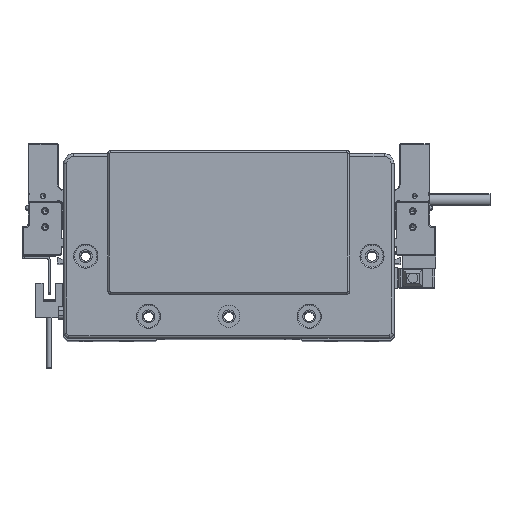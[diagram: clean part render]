
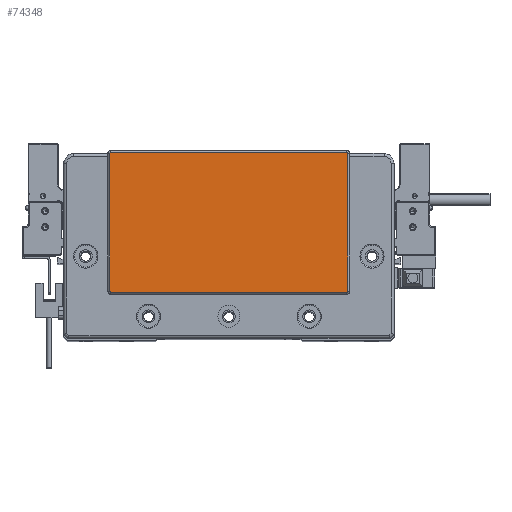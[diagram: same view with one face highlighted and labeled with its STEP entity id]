
A CAD part, top view. The second image highlights one B-rep face of the part: STEP entity #74348.
In plain terms, the highlighted planar face has unit normal (0, 0, 1) as drawn and (0, 0, -1) by its records, which use the part's own axes.
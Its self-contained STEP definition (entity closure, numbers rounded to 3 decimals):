
#30 = VECTOR ( 'NONE', #4992, 1000. ) ;
#916 = CARTESIAN_POINT ( 'NONE',  ( 59.25, -23.3, -2. ) ) ;
#2316 = AXIS2_PLACEMENT_3D ( 'NONE', #13705, #54300, #71733 ) ;
#2453 = CARTESIAN_POINT ( 'NONE',  ( -58.75, 45.3, -2. ) ) ;
#2470 = ORIENTED_EDGE ( 'NONE', *, *, #19140, .T. ) ;
#4309 = CARTESIAN_POINT ( 'NONE',  ( -59.25, -23.3, -2. ) ) ;
#4992 = DIRECTION ( 'NONE',  ( 0., 1., 0. ) ) ;
#7137 = EDGE_CURVE ( 'NONE', #68412, #57558, #61884, .T. ) ;
#8781 = DIRECTION ( 'NONE',  ( 0., -1., 0. ) ) ;
#13705 = CARTESIAN_POINT ( 'NONE',  ( 0., 0., -2. ) ) ;
#14352 = EDGE_LOOP ( 'NONE', ( #2470, #41384, #21882, #21409, #43980, #45262, #30263, #16435 ) ) ;
#14668 = CARTESIAN_POINT ( 'NONE',  ( -59.25, 45.3, -2. ) ) ;
#15125 = VERTEX_POINT ( 'NONE', #20157 ) ;
#16435 = ORIENTED_EDGE ( 'NONE', *, *, #72998, .T. ) ;
#16975 = CARTESIAN_POINT ( 'NONE',  ( 58.75, -23.8, -2. ) ) ;
#17461 = CIRCLE ( 'NONE', #63491, 0.5 ) ;
#17858 = DIRECTION ( 'NONE',  ( 0., 0., -1. ) ) ;
#17868 = CIRCLE ( 'NONE', #20316, 0.5 ) ;
#19140 = EDGE_CURVE ( 'NONE', #42565, #64646, #44022, .T. ) ;
#19739 = EDGE_CURVE ( 'NONE', #61515, #29574, #17461, .T. ) ;
#20157 = CARTESIAN_POINT ( 'NONE',  ( 58.75, 45.8, -2. ) ) ;
#20316 = AXIS2_PLACEMENT_3D ( 'NONE', #74435, #17858, #29272 ) ;
#20738 = CARTESIAN_POINT ( 'NONE',  ( 59.25, 45.3, -2. ) ) ;
#21409 = ORIENTED_EDGE ( 'NONE', *, *, #62837, .T. ) ;
#21611 = AXIS2_PLACEMENT_3D ( 'NONE', #73881, #21900, #62114 ) ;
#21882 = ORIENTED_EDGE ( 'NONE', *, *, #7137, .T. ) ;
#21900 = DIRECTION ( 'NONE',  ( 0., 0., -1. ) ) ;
#22029 = EDGE_CURVE ( 'NONE', #29574, #15125, #61237, .T. ) ;
#22037 = CARTESIAN_POINT ( 'NONE',  ( -59.25, 45.3, -2. ) ) ;
#25312 = VECTOR ( 'NONE', #74396, 1000. ) ;
#29272 = DIRECTION ( 'NONE',  ( -1., 0., 0. ) ) ;
#29574 = VERTEX_POINT ( 'NONE', #44166 ) ;
#30263 = ORIENTED_EDGE ( 'NONE', *, *, #22029, .T. ) ;
#36822 = VECTOR ( 'NONE', #8781, 1000. ) ;
#37318 = DIRECTION ( 'NONE',  ( 0., 0., -1. ) ) ;
#37491 = VECTOR ( 'NONE', #67264, 1000. ) ;
#38554 = DIRECTION ( 'NONE',  ( -1., 0., 0. ) ) ;
#39208 = CIRCLE ( 'NONE', #47733, 0.5 ) ;
#39471 = LINE ( 'NONE', #22037, #30 ) ;
#41384 = ORIENTED_EDGE ( 'NONE', *, *, #73758, .T. ) ;
#41792 = EDGE_CURVE ( 'NONE', #53713, #61515, #39471, .T. ) ;
#42565 = VERTEX_POINT ( 'NONE', #20738 ) ;
#43980 = ORIENTED_EDGE ( 'NONE', *, *, #41792, .T. ) ;
#44022 = LINE ( 'NONE', #66396, #36822 ) ;
#44166 = CARTESIAN_POINT ( 'NONE',  ( -58.75, 45.8, -2. ) ) ;
#44620 = DIRECTION ( 'NONE',  ( 0., 0., -1. ) ) ;
#45262 = ORIENTED_EDGE ( 'NONE', *, *, #19739, .T. ) ;
#45810 = CIRCLE ( 'NONE', #21611, 0.5 ) ;
#47733 = AXIS2_PLACEMENT_3D ( 'NONE', #72714, #44620, #38554 ) ;
#53713 = VERTEX_POINT ( 'NONE', #4309 ) ;
#54300 = DIRECTION ( 'NONE',  ( 0., 0., -1. ) ) ;
#56568 = CARTESIAN_POINT ( 'NONE',  ( -58.75, -23.8, -2. ) ) ;
#57558 = VERTEX_POINT ( 'NONE', #74192 ) ;
#61237 = LINE ( 'NONE', #72996, #37491 ) ;
#61515 = VERTEX_POINT ( 'NONE', #14668 ) ;
#61884 = LINE ( 'NONE', #56568, #25312 ) ;
#62114 = DIRECTION ( 'NONE',  ( -1., 0., 0. ) ) ;
#62837 = EDGE_CURVE ( 'NONE', #57558, #53713, #39208, .T. ) ;
#63491 = AXIS2_PLACEMENT_3D ( 'NONE', #2453, #37318, #70716 ) ;
#64646 = VERTEX_POINT ( 'NONE', #916 ) ;
#65680 = PLANE ( 'NONE',  #2316 ) ;
#66396 = CARTESIAN_POINT ( 'NONE',  ( 59.25, -23.3, -2. ) ) ;
#67264 = DIRECTION ( 'NONE',  ( 1., 0., 0. ) ) ;
#68412 = VERTEX_POINT ( 'NONE', #16975 ) ;
#70716 = DIRECTION ( 'NONE',  ( -1., 0., 0. ) ) ;
#71733 = DIRECTION ( 'NONE',  ( -1., 0., 0. ) ) ;
#72091 = FACE_OUTER_BOUND ( 'NONE', #14352, .T. ) ;
#72714 = CARTESIAN_POINT ( 'NONE',  ( -58.75, -23.3, -2. ) ) ;
#72996 = CARTESIAN_POINT ( 'NONE',  ( 58.75, 45.8, -2. ) ) ;
#72998 = EDGE_CURVE ( 'NONE', #15125, #42565, #17868, .T. ) ;
#73758 = EDGE_CURVE ( 'NONE', #64646, #68412, #45810, .T. ) ;
#73881 = CARTESIAN_POINT ( 'NONE',  ( 58.75, -23.3, -2. ) ) ;
#74192 = CARTESIAN_POINT ( 'NONE',  ( -58.75, -23.8, -2. ) ) ;
#74348 = ADVANCED_FACE ( 'NONE', ( #72091 ), #65680, .T. ) ;
#74396 = DIRECTION ( 'NONE',  ( -1., 0., 0. ) ) ;
#74435 = CARTESIAN_POINT ( 'NONE',  ( 58.75, 45.3, -2. ) ) ;
